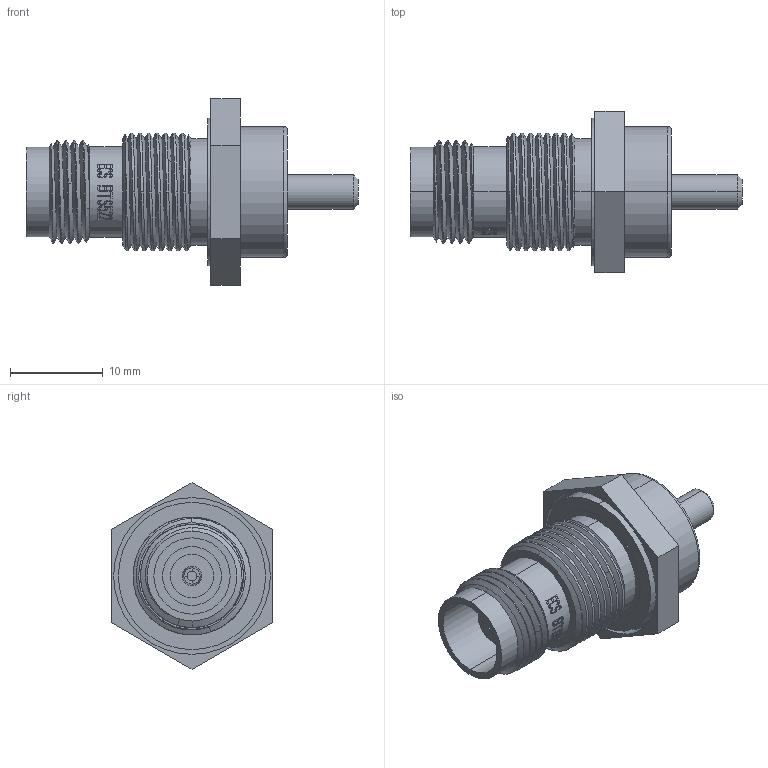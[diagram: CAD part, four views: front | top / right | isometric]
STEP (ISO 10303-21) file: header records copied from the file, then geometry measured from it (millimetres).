
FILE_DESCRIPTION((''),'2;1');
FILE_NAME('BTS522','2019-12-02T14:49:16',('paul.nurczyk'),('Carlisle Interconnect Technologies'),'CREO PARAMETRIC BY PTC INC, 2017260','CREO PARAMETRIC BY PTC INC, 2017260','');
FILE_SCHEMA(('CONFIG_CONTROL_DESIGN'));
Length unit declared in the file: inch
Products named in the file (1): BTS522
Bounding box: 35.81 x 17.42 x 20.12 mm (x, y, z)
Volume: 3247.4 mm3; surface area: 2571.6 mm2
Topology: 1 solids, 1 shells, 422 faces, 1183 edges, 779 vertices
Faces by surface type: bspline 203, plane 143, cylinder 59, cone 15, torus 2
Entity records: 21100 total; most frequent: CARTESIAN_POINT 10807, ORIENTED_EDGE 2366, DIRECTION 1845, EDGE_CURVE 1183, VERTEX_POINT 779, AXIS2_PLACEMENT_3D 692, CIRCLE 473, VECTOR 461
